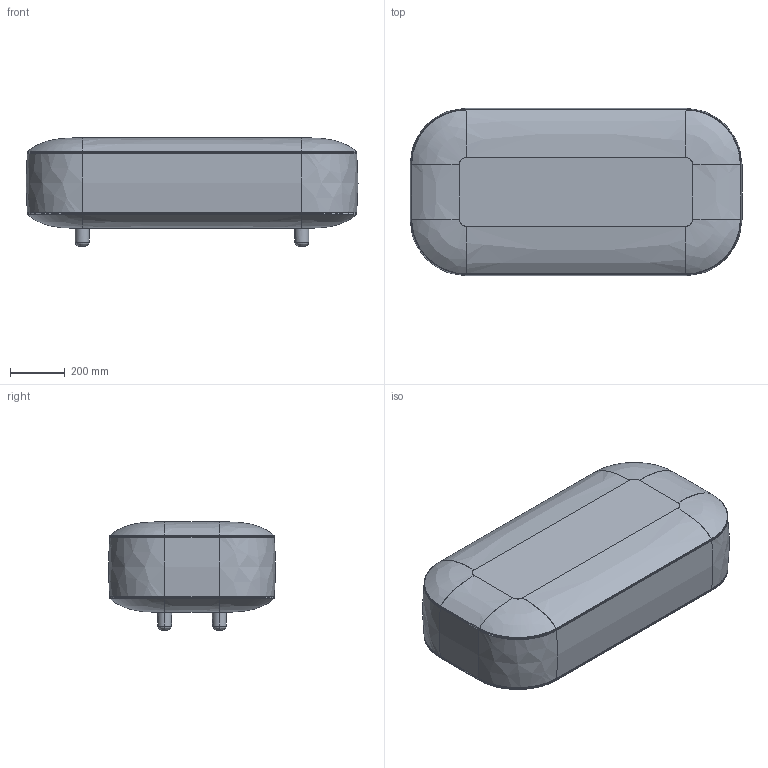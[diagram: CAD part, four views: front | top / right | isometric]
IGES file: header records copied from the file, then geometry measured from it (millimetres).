
Start section: SolidWorks IGES file using analytic representation for surfaces
Global section: file name: C:\Users\Usuario\Dropbox\Viccarbe\ARCHIVOS ENVIAR SILVIA\3D\Common\7- CO120L (120X60)\IGES\CO120L.IGS; native system: SolidWorks 2013; preprocessor: SolidWorks 2013; author: Usuario; date: 130514.124929; units: millimetre
Bounding box: 1210 x 610 x 395 mm (x, y, z)
Surface area: 4972533.6 mm2 (no closed solid volume)
Topology: 0 solids, 0 shells, 118 faces, 1234 edges, 1234 vertices
Faces by surface type: bspline 90, revolution 28
